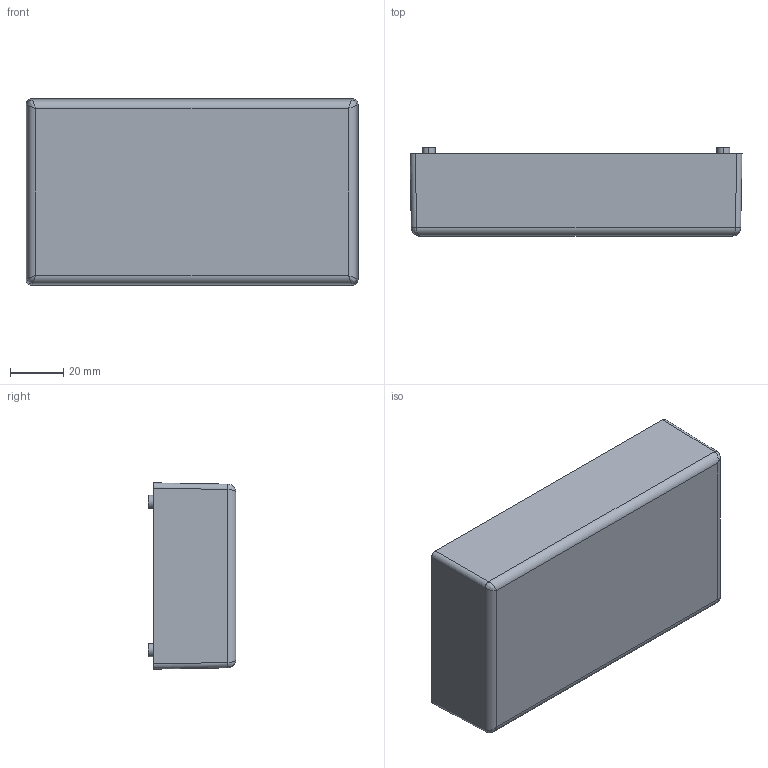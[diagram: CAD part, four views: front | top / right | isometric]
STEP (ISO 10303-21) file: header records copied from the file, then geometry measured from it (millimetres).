
FILE_DESCRIPTION (( 'STEP AP214' ), '1' );
FILE_NAME ('Cuerpo PP19.STEP', '2021-02-26T08:32:53', ( 'aaa' ), ( '' ), 'SwSTEP 2.0', 'SolidWorks 2014', '' );
FILE_SCHEMA (( 'AUTOMOTIVE_DESIGN' ));
Length unit declared in the file: millimetre
Products named in the file (1): Cuerpo PP19
Bounding box: 125.08 x 33.1 x 70.18 mm (x, y, z)
Volume: 57025.9 mm3; surface area: 43774.5 mm2
Topology: 1 solids, 1 shells, 89 faces, 196 edges, 124 vertices
Faces by surface type: cylinder 48, plane 37, bspline 4
Entity records: 2616 total; most frequent: CARTESIAN_POINT 606, DIRECTION 436, ORIENTED_EDGE 384, EDGE_CURVE 192, AXIS2_PLACEMENT_3D 170, VERTEX_POINT 124, EDGE_LOOP 108, VECTOR 96
